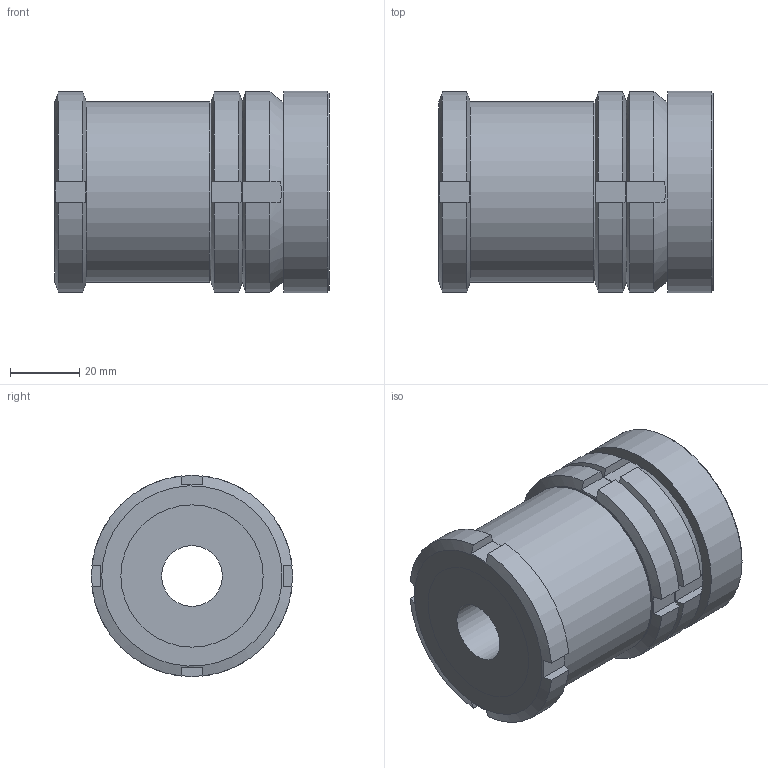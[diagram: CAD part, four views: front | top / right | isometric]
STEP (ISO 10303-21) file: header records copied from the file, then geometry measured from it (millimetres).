
FILE_DESCRIPTION( ( 'STEP AP203' ), '1' );
FILE_NAME( 'C:/Temp/Ganter_Step_05_03_2020/data/3_2/gn350_5/gn350_5_ni/Stainless Steel-Levelling set GN 350.5-58-17,5-79-NI (0-0).stp', '2020-03-13T05:28:52', ( 'License CC BY-ND 4.0' ), ( 'CADENAS' ), ' ', 'PARTsolutions', ' ' );
FILE_SCHEMA( ( 'CONFIG_CONTROL_DESIGN' ) );
Length unit declared in the file: millimetre
Products named in the file (5): Stainless Steel-Levelling set GN 350.5-58-17,5-79-NI (0-0); _Levelling set GN 350.5-58-17,5-79-ST-G; _Levelling set GN 350.5-58-17,5-79-ST-K; _Levelling set GN 350.5-58-17,5-79-ST-P(0); _Levelling set GN 350.5-58-17,5-53-ST-KM
Assembly tree (4 placements, depth 2):
  Stainless Steel-Levelling set GN 350.5-58-17,5-79-NI (0-0)
    _Levelling set GN 350.5-58-17,5-79-ST-G
    _Levelling set GN 350.5-58-17,5-79-ST-K
    _Levelling set GN 350.5-58-17,5-79-ST-P(0)
    _Levelling set GN 350.5-58-17,5-53-ST-KM
Bounding box: 79 x 58 x 58 mm (x, y, z)
Volume: 165396 mm3; surface area: 46907 mm2
Topology: 4 solids, 4 shells, 85 faces, 211 edges, 140 vertices
Faces by surface type: plane 50, cylinder 24, cone 9, sphere 2
Full cylindrical faces by diameter (mm): 17.5 x1, 31.5 x1, 33.485 x1, 34.5 x1, 38.376 x1, 38.917 x1, 39 x1, 40 x1, 41 x2, 52 x1, 58 x1
Entity records: 2696 total; most frequent: CARTESIAN_POINT 698, DIRECTION 368, ORIENTED_EDGE 356, EDGE_CURVE 178, AXIS2_PLACEMENT_3D 160, VERTEX_POINT 130, EDGE_LOOP 122, FACE_OUTER_BOUND 99
